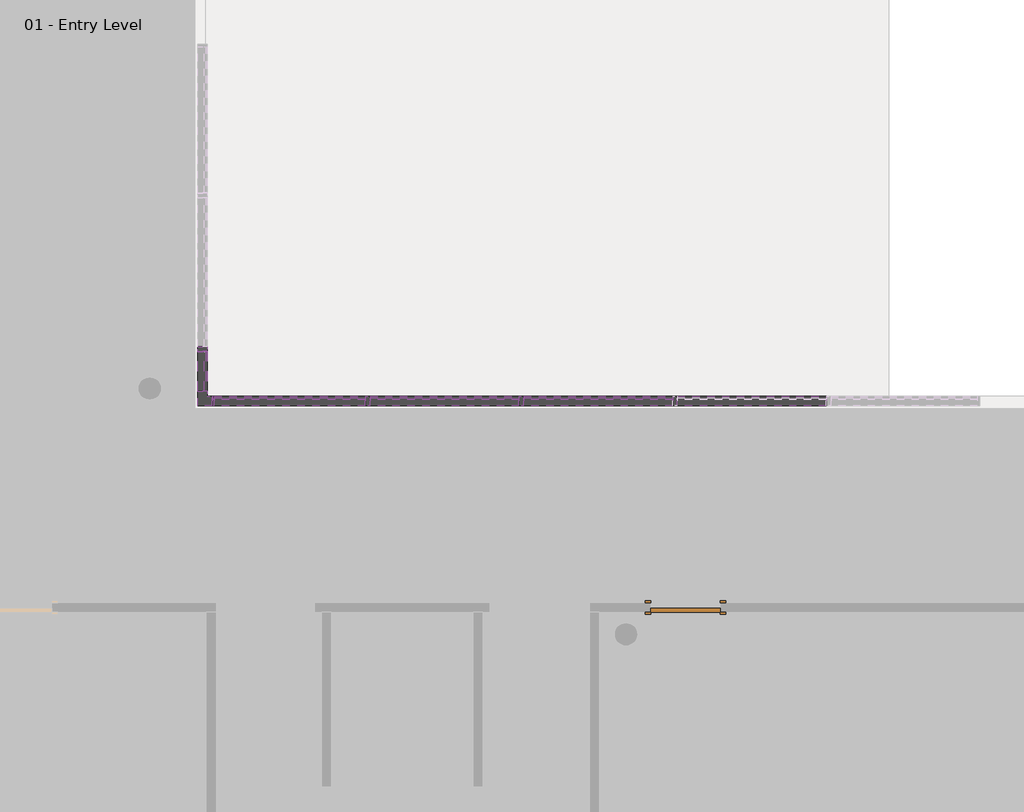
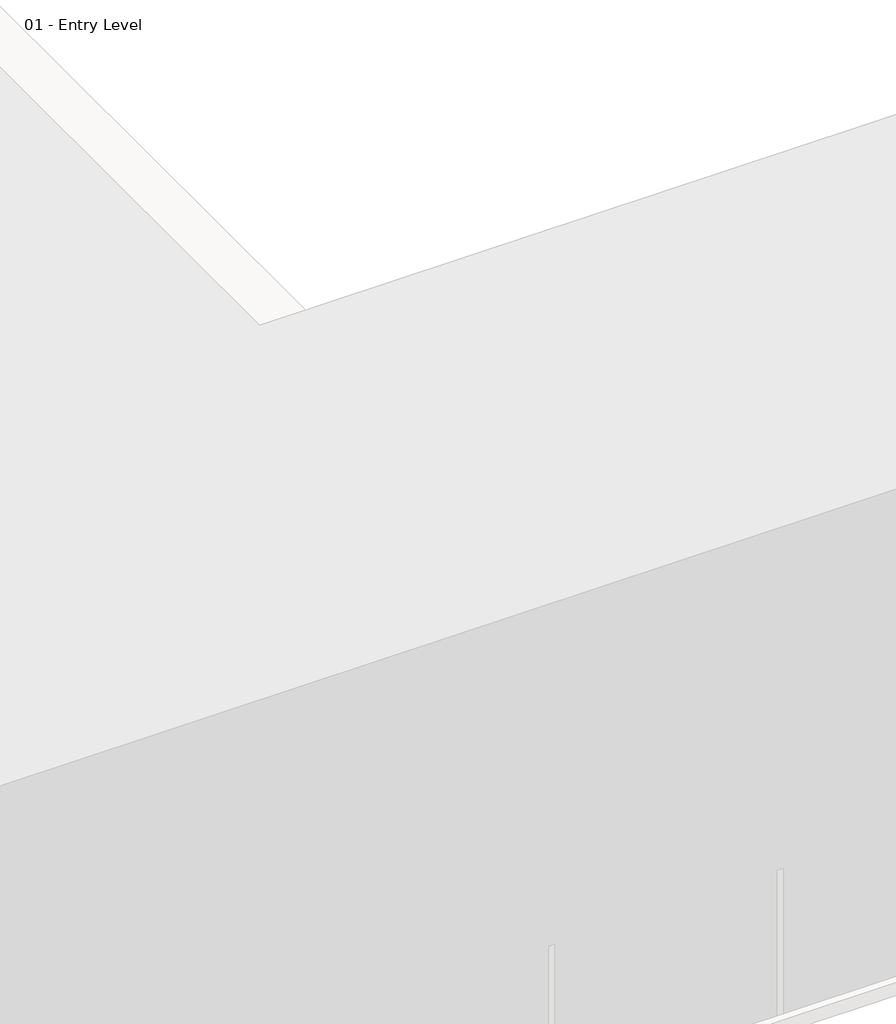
# One storey, part 9 of 34: 96 members, 30 plates, 1 door.
"""IFC4 building model written with IfcOpenShell, lengths in millimetres."""

from ifc_helpers import new_model, si_unit, origin, place, context, project, spatial, transform, mapped, element, save
from components import door_a1797ceb, member_863be36e, member_2b49869a, member_391b434c, member_9e90ae50, member_274b5bb4, member_3f1e2ae8, member_cfd492dc, member_3d213ca6, member_0f16ceef, member_ba732fc4, system_panel_glazed_1b9d6098, system_panel_glazed_70da479d, system_panel_glazed_4b84483b, system_panel_glazed_9dcaf0c5, system_panel_glazed_75599714, system_panel_glazed_d6bfc804

model = new_model("IFC4")

# Units and contexts
model_context = context("Model", 3, world=origin())
ifc_project = project(units=[si_unit("LENGTHUNIT", "METRE", prefix="MILLI")], contexts=[model_context])

# Site, building, storey
site = spatial("IfcSite", under=ifc_project)
building = spatial("IfcBuilding", under=site)
storey = spatial("IfcBuildingStorey", under=building, Name="01 - Entry Level", Elevation=0.0)

# Door
placement = place(None, origin())
door_shape = door_a1797ceb(model_context)
element("IfcDoor", 1, ObjectType="Single-Flush : 36\" x 84\"", at=placement, inside=storey, context=model_context, shape_type="MappedRepresentation", body=[
    mapped(door_shape, transform((23572.1207476, 8270.8, 0.0), x_axis=(-1.0, 0.0, 0.0), y_axis=(0.0, -1.0, 0.0), z_axis=(0.0, 0.0, 1.0))),
])

# Members
member_shape = member_863be36e(model_context)
element("IfcMember", 2, ObjectType="L Corner Mullion : 5\" x 5\" Corner", at=placement, inside=storey, context=model_context, shape_type="MappedRepresentation", body=[
    mapped(member_shape, transform((17184.0207476, 11001.3, 10972.8), x_axis=(0.0, -1.0, 0.0), y_axis=(1.0, 0.0, 0.0), z_axis=(0.0, 0.0, 1.0))),
])
element("IfcMember", 3, ObjectType="L Corner Mullion : 5\" x 5\" Corner", at=placement, inside=storey, context=model_context, shape_type="MappedRepresentation", body=[
    mapped(member_shape, transform((17184.0207476, 11001.3, 6096.0), x_axis=(0.0, -1.0, 0.0), y_axis=(1.0, 0.0, 0.0), z_axis=(0.0, 0.0, 1.0))),
])
element("IfcMember", 4, ObjectType="L Corner Mullion : 5\" x 5\" Corner", at=placement, inside=storey, context=model_context, shape_type="MappedRepresentation", body=[
    mapped(member_shape, transform((17184.0207476, 11001.3, 1219.2), x_axis=(0.0, -1.0, 0.0), y_axis=(1.0, 0.0, 0.0), z_axis=(0.0, 0.0, 1.0))),
])
element("IfcMember", 5, ObjectType="L Corner Mullion : 5\" x 5\" Corner", at=placement, inside=storey, context=model_context, shape_type="MappedRepresentation", body=[
    mapped(member_shape, transform((17184.0207476, 11001.3, 8534.4), x_axis=(0.0, -1.0, 0.0), y_axis=(1.0, 0.0, 0.0), z_axis=(0.0, 0.0, 1.0))),
])
element("IfcMember", 6, ObjectType="L Corner Mullion : 5\" x 5\" Corner", at=placement, inside=storey, context=model_context, shape_type="MappedRepresentation", body=[
    mapped(member_shape, transform((17184.0207476, 11001.3, 2438.4), x_axis=(0.0, -1.0, 0.0), y_axis=(1.0, 0.0, 0.0), z_axis=(0.0, 0.0, 1.0))),
])
element("IfcMember", 7, ObjectType="L Corner Mullion : 5\" x 5\" Corner", at=placement, inside=storey, context=model_context, shape_type="MappedRepresentation", body=[
    mapped(member_shape, transform((17184.0207476, 11001.3, 3657.6), x_axis=(0.0, -1.0, 0.0), y_axis=(1.0, 0.0, 0.0), z_axis=(0.0, 0.0, 1.0))),
])
element("IfcMember", 8, ObjectType="L Corner Mullion : 5\" x 5\" Corner", at=placement, inside=storey, context=model_context, shape_type="MappedRepresentation", body=[
    mapped(member_shape, transform((17184.0207476, 11001.3, 4876.8), x_axis=(0.0, -1.0, 0.0), y_axis=(1.0, 0.0, 0.0), z_axis=(0.0, 0.0, 1.0))),
])
element("IfcMember", 9, ObjectType="L Corner Mullion : 5\" x 5\" Corner", at=placement, inside=storey, context=model_context, shape_type="MappedRepresentation", body=[
    mapped(member_shape, transform((17184.0207476, 11001.3, 9753.6), x_axis=(0.0, -1.0, 0.0), y_axis=(1.0, 0.0, 0.0), z_axis=(0.0, 0.0, 1.0))),
])
element("IfcMember", 10, ObjectType="L Corner Mullion : 5\" x 5\" Corner", at=placement, inside=storey, context=model_context, shape_type="MappedRepresentation", body=[
    mapped(member_shape, transform((17184.0207476, 11001.3, 6096.0), x_axis=(-1.0, 0.0, 0.0), y_axis=(0.0, 1.0, 0.0), z_axis=(0.0, 0.0, -1.0))),
])
member_2_shape = member_2b49869a(model_context)
element("IfcMember", 11, ObjectType="Rectangular Mullion : 2.5\" x 5\" rectangular", at=placement, inside=storey, context=model_context, shape_type="MappedRepresentation", body=[
    mapped(member_2_shape, transform((21400.4207476, 11001.3, 9753.6), x_axis=(-1.0, 0.0, 0.0), y_axis=(0.0, 1.0, 0.0), z_axis=(0.0, 0.0, -1.0))),
])
element("IfcMember", 12, ObjectType="Rectangular Mullion : 2.5\" x 5\" rectangular", at=placement, inside=storey, context=model_context, shape_type="MappedRepresentation", body=[
    mapped(member_2_shape, transform((19368.4207476, 11001.3, 9753.6), x_axis=(-1.0, 0.0, 0.0), y_axis=(0.0, 1.0, 0.0), z_axis=(0.0, 0.0, -1.0))),
])
element("IfcMember", 13, ObjectType="Rectangular Mullion : 2.5\" x 5\" rectangular", at=placement, inside=storey, context=model_context, shape_type="MappedRepresentation", body=[
    mapped(member_2_shape, transform((17184.0207476, 11687.1, 9753.6), x_axis=(0.0, 1.0, 0.0), y_axis=(1.0, 0.0, 0.0), z_axis=(0.0, 0.0, -1.0))),
])
member_3_shape = member_391b434c(model_context)
element("IfcMember", 14, ObjectType="Rectangular Mullion : 2.5\" x 5\" rectangular", at=placement, inside=storey, context=model_context, shape_type="MappedRepresentation", body=[
    mapped(member_3_shape, transform((23464.1707476, 11001.3, 10972.8), x_axis=(0.0, 0.0, 1.0), y_axis=(0.0, 1.0, 0.0), z_axis=(-1.0, 0.0, 0.0))),
])
element("IfcMember", 15, ObjectType="Rectangular Mullion : 2.5\" x 5\" rectangular", at=placement, inside=storey, context=model_context, shape_type="MappedRepresentation", body=[
    mapped(member_3_shape, transform((21432.1707476, 11001.3, 10972.8), x_axis=(0.0, 0.0, 1.0), y_axis=(0.0, 1.0, 0.0), z_axis=(-1.0, 0.0, 0.0))),
])
element("IfcMember", 16, ObjectType="Rectangular Mullion : 2.5\" x 5\" rectangular", at=placement, inside=storey, context=model_context, shape_type="MappedRepresentation", body=[
    mapped(member_3_shape, transform((19400.1707476, 11001.3, 10972.8), x_axis=(0.0, 0.0, 1.0), y_axis=(0.0, 1.0, 0.0), z_axis=(-1.0, 0.0, 0.0))),
])
element("IfcMember", 17, ObjectType="Rectangular Mullion : 2.5\" x 5\" rectangular", at=placement, inside=storey, context=model_context, shape_type="MappedRepresentation", body=[
    mapped(member_3_shape, transform((23400.6707476, 11001.3, 0.0), x_axis=(0.0, 0.0, -1.0), y_axis=(0.0, 1.0, 0.0), z_axis=(1.0, 0.0, 0.0))),
])
element("IfcMember", 18, ObjectType="Rectangular Mullion : 2.5\" x 5\" rectangular", at=placement, inside=storey, context=model_context, shape_type="MappedRepresentation", body=[
    mapped(member_3_shape, transform((21368.6707476, 11001.3, 0.0), x_axis=(0.0, 0.0, -1.0), y_axis=(0.0, 1.0, 0.0), z_axis=(1.0, 0.0, 0.0))),
])
element("IfcMember", 19, ObjectType="Rectangular Mullion : 2.5\" x 5\" rectangular", at=placement, inside=storey, context=model_context, shape_type="MappedRepresentation", body=[
    mapped(member_3_shape, transform((17184.0207476, 11718.85, 0.0), x_axis=(0.0, 0.0, -1.0), y_axis=(1.0, 0.0, 0.0), z_axis=(0.0, -1.0, 0.0))),
])
member_4_shape = member_9e90ae50(model_context)
element("IfcMember", 20, ObjectType="Rectangular Mullion : 2.5\" x 5\" rectangular", at=placement, inside=storey, context=model_context, shape_type="MappedRepresentation", body=[
    mapped(member_4_shape, transform((23464.1707476, 11001.3, 1219.2), x_axis=(0.0, 0.0, 1.0), y_axis=(0.0, 1.0, 0.0), z_axis=(-1.0, 0.0, 0.0))),
])
element("IfcMember", 21, ObjectType="Rectangular Mullion : 2.5\" x 5\" rectangular", at=placement, inside=storey, context=model_context, shape_type="MappedRepresentation", body=[
    mapped(member_4_shape, transform((21432.1707476, 11001.3, 1219.2), x_axis=(0.0, 0.0, 1.0), y_axis=(0.0, 1.0, 0.0), z_axis=(-1.0, 0.0, 0.0))),
])
element("IfcMember", 22, ObjectType="Rectangular Mullion : 2.5\" x 5\" rectangular", at=placement, inside=storey, context=model_context, shape_type="MappedRepresentation", body=[
    mapped(member_4_shape, transform((19400.1707476, 11001.3, 1219.2), x_axis=(0.0, 0.0, 1.0), y_axis=(0.0, 1.0, 0.0), z_axis=(-1.0, 0.0, 0.0))),
])
element("IfcMember", 23, ObjectType="Rectangular Mullion : 2.5\" x 5\" rectangular", at=placement, inside=storey, context=model_context, shape_type="MappedRepresentation", body=[
    mapped(member_4_shape, transform((23464.1707476, 11001.3, 2438.4), x_axis=(0.0, 0.0, 1.0), y_axis=(0.0, 1.0, 0.0), z_axis=(-1.0, 0.0, 0.0))),
])
element("IfcMember", 24, ObjectType="Rectangular Mullion : 2.5\" x 5\" rectangular", at=placement, inside=storey, context=model_context, shape_type="MappedRepresentation", body=[
    mapped(member_4_shape, transform((21432.1707476, 11001.3, 2438.4), x_axis=(0.0, 0.0, 1.0), y_axis=(0.0, 1.0, 0.0), z_axis=(-1.0, 0.0, 0.0))),
])
element("IfcMember", 25, ObjectType="Rectangular Mullion : 2.5\" x 5\" rectangular", at=placement, inside=storey, context=model_context, shape_type="MappedRepresentation", body=[
    mapped(member_4_shape, transform((19400.1707476, 11001.3, 2438.4), x_axis=(0.0, 0.0, 1.0), y_axis=(0.0, 1.0, 0.0), z_axis=(-1.0, 0.0, 0.0))),
])
element("IfcMember", 26, ObjectType="Rectangular Mullion : 2.5\" x 5\" rectangular", at=placement, inside=storey, context=model_context, shape_type="MappedRepresentation", body=[
    mapped(member_4_shape, transform((23464.1707476, 11001.3, 3657.6), x_axis=(0.0, 0.0, 1.0), y_axis=(0.0, 1.0, 0.0), z_axis=(-1.0, 0.0, 0.0))),
])
element("IfcMember", 27, ObjectType="Rectangular Mullion : 2.5\" x 5\" rectangular", at=placement, inside=storey, context=model_context, shape_type="MappedRepresentation", body=[
    mapped(member_4_shape, transform((21432.1707476, 11001.3, 3657.6), x_axis=(0.0, 0.0, 1.0), y_axis=(0.0, 1.0, 0.0), z_axis=(-1.0, 0.0, 0.0))),
])
element("IfcMember", 28, ObjectType="Rectangular Mullion : 2.5\" x 5\" rectangular", at=placement, inside=storey, context=model_context, shape_type="MappedRepresentation", body=[
    mapped(member_4_shape, transform((19400.1707476, 11001.3, 3657.6), x_axis=(0.0, 0.0, 1.0), y_axis=(0.0, 1.0, 0.0), z_axis=(-1.0, 0.0, 0.0))),
])
element("IfcMember", 29, ObjectType="Rectangular Mullion : 2.5\" x 5\" rectangular", at=placement, inside=storey, context=model_context, shape_type="MappedRepresentation", body=[
    mapped(member_4_shape, transform((23464.1707476, 11001.3, 4876.8), x_axis=(0.0, 0.0, 1.0), y_axis=(0.0, 1.0, 0.0), z_axis=(-1.0, 0.0, 0.0))),
])
element("IfcMember", 30, ObjectType="Rectangular Mullion : 2.5\" x 5\" rectangular", at=placement, inside=storey, context=model_context, shape_type="MappedRepresentation", body=[
    mapped(member_4_shape, transform((21432.1707476, 11001.3, 4876.8), x_axis=(0.0, 0.0, 1.0), y_axis=(0.0, 1.0, 0.0), z_axis=(-1.0, 0.0, 0.0))),
])
element("IfcMember", 31, ObjectType="Rectangular Mullion : 2.5\" x 5\" rectangular", at=placement, inside=storey, context=model_context, shape_type="MappedRepresentation", body=[
    mapped(member_4_shape, transform((19400.1707476, 11001.3, 4876.8), x_axis=(0.0, 0.0, 1.0), y_axis=(0.0, 1.0, 0.0), z_axis=(-1.0, 0.0, 0.0))),
])
element("IfcMember", 32, ObjectType="Rectangular Mullion : 2.5\" x 5\" rectangular", at=placement, inside=storey, context=model_context, shape_type="MappedRepresentation", body=[
    mapped(member_4_shape, transform((23464.1707476, 11001.3, 6096.0), x_axis=(0.0, 0.0, 1.0), y_axis=(0.0, 1.0, 0.0), z_axis=(-1.0, 0.0, 0.0))),
])
element("IfcMember", 33, ObjectType="Rectangular Mullion : 2.5\" x 5\" rectangular", at=placement, inside=storey, context=model_context, shape_type="MappedRepresentation", body=[
    mapped(member_4_shape, transform((21432.1707476, 11001.3, 6096.0), x_axis=(0.0, 0.0, 1.0), y_axis=(0.0, 1.0, 0.0), z_axis=(-1.0, 0.0, 0.0))),
])
element("IfcMember", 34, ObjectType="Rectangular Mullion : 2.5\" x 5\" rectangular", at=placement, inside=storey, context=model_context, shape_type="MappedRepresentation", body=[
    mapped(member_4_shape, transform((19400.1707476, 11001.3, 6096.0), x_axis=(0.0, 0.0, 1.0), y_axis=(0.0, 1.0, 0.0), z_axis=(-1.0, 0.0, 0.0))),
])
element("IfcMember", 35, ObjectType="Rectangular Mullion : 2.5\" x 5\" rectangular", at=placement, inside=storey, context=model_context, shape_type="MappedRepresentation", body=[
    mapped(member_4_shape, transform((23464.1707476, 11001.3, 7315.2), x_axis=(0.0, 0.0, 1.0), y_axis=(0.0, 1.0, 0.0), z_axis=(-1.0, 0.0, 0.0))),
])
element("IfcMember", 36, ObjectType="Rectangular Mullion : 2.5\" x 5\" rectangular", at=placement, inside=storey, context=model_context, shape_type="MappedRepresentation", body=[
    mapped(member_4_shape, transform((21432.1707476, 11001.3, 7315.2), x_axis=(0.0, 0.0, 1.0), y_axis=(0.0, 1.0, 0.0), z_axis=(-1.0, 0.0, 0.0))),
])
element("IfcMember", 37, ObjectType="Rectangular Mullion : 2.5\" x 5\" rectangular", at=placement, inside=storey, context=model_context, shape_type="MappedRepresentation", body=[
    mapped(member_4_shape, transform((19400.1707476, 11001.3, 7315.2), x_axis=(0.0, 0.0, 1.0), y_axis=(0.0, 1.0, 0.0), z_axis=(-1.0, 0.0, 0.0))),
])
element("IfcMember", 38, ObjectType="Rectangular Mullion : 2.5\" x 5\" rectangular", at=placement, inside=storey, context=model_context, shape_type="MappedRepresentation", body=[
    mapped(member_4_shape, transform((23464.1707476, 11001.3, 8534.4), x_axis=(0.0, 0.0, 1.0), y_axis=(0.0, 1.0, 0.0), z_axis=(-1.0, 0.0, 0.0))),
])
element("IfcMember", 39, ObjectType="Rectangular Mullion : 2.5\" x 5\" rectangular", at=placement, inside=storey, context=model_context, shape_type="MappedRepresentation", body=[
    mapped(member_4_shape, transform((21432.1707476, 11001.3, 8534.4), x_axis=(0.0, 0.0, 1.0), y_axis=(0.0, 1.0, 0.0), z_axis=(-1.0, 0.0, 0.0))),
])
element("IfcMember", 40, ObjectType="Rectangular Mullion : 2.5\" x 5\" rectangular", at=placement, inside=storey, context=model_context, shape_type="MappedRepresentation", body=[
    mapped(member_4_shape, transform((19400.1707476, 11001.3, 8534.4), x_axis=(0.0, 0.0, 1.0), y_axis=(0.0, 1.0, 0.0), z_axis=(-1.0, 0.0, 0.0))),
])
element("IfcMember", 41, ObjectType="Rectangular Mullion : 2.5\" x 5\" rectangular", at=placement, inside=storey, context=model_context, shape_type="MappedRepresentation", body=[
    mapped(member_4_shape, transform((23464.1707476, 11001.3, 9753.6), x_axis=(0.0, 0.0, 1.0), y_axis=(0.0, 1.0, 0.0), z_axis=(-1.0, 0.0, 0.0))),
])
element("IfcMember", 42, ObjectType="Rectangular Mullion : 2.5\" x 5\" rectangular", at=placement, inside=storey, context=model_context, shape_type="MappedRepresentation", body=[
    mapped(member_4_shape, transform((21432.1707476, 11001.3, 9753.6), x_axis=(0.0, 0.0, 1.0), y_axis=(0.0, 1.0, 0.0), z_axis=(-1.0, 0.0, 0.0))),
])
element("IfcMember", 43, ObjectType="Rectangular Mullion : 2.5\" x 5\" rectangular", at=placement, inside=storey, context=model_context, shape_type="MappedRepresentation", body=[
    mapped(member_4_shape, transform((19400.1707476, 11001.3, 9753.6), x_axis=(0.0, 0.0, 1.0), y_axis=(0.0, 1.0, 0.0), z_axis=(-1.0, 0.0, 0.0))),
])
element("IfcMember", 44, ObjectType="Rectangular Mullion : 2.5\" x 5\" rectangular", at=placement, inside=storey, context=model_context, shape_type="MappedRepresentation", body=[
    mapped(member_2_shape, transform((23432.4207476, 11001.3, 0.0), x_axis=(-1.0, 0.0, 0.0), y_axis=(0.0, 1.0, 0.0), z_axis=(0.0, 0.0, -1.0))),
])
element("IfcMember", 45, ObjectType="Rectangular Mullion : 2.5\" x 5\" rectangular", at=placement, inside=storey, context=model_context, shape_type="MappedRepresentation", body=[
    mapped(member_2_shape, transform((21400.4207476, 11001.3, 0.0), x_axis=(-1.0, 0.0, 0.0), y_axis=(0.0, 1.0, 0.0), z_axis=(0.0, 0.0, -1.0))),
])
element("IfcMember", 46, ObjectType="Rectangular Mullion : 2.5\" x 5\" rectangular", at=placement, inside=storey, context=model_context, shape_type="MappedRepresentation", body=[
    mapped(member_2_shape, transform((19368.4207476, 11001.3, 0.0), x_axis=(-1.0, 0.0, 0.0), y_axis=(0.0, 1.0, 0.0), z_axis=(0.0, 0.0, -1.0))),
])
element("IfcMember", 47, ObjectType="Rectangular Mullion : 2.5\" x 5\" rectangular", at=placement, inside=storey, context=model_context, shape_type="MappedRepresentation", body=[
    mapped(member_2_shape, transform((17184.0207476, 11687.1, 0.0), x_axis=(0.0, 1.0, 0.0), y_axis=(1.0, 0.0, 0.0), z_axis=(0.0, 0.0, -1.0))),
])
element("IfcMember", 48, ObjectType="Rectangular Mullion : 2.5\" x 5\" rectangular", at=placement, inside=storey, context=model_context, shape_type="MappedRepresentation", body=[
    mapped(member_2_shape, transform((21400.4207476, 11001.3, 1219.2), x_axis=(-1.0, 0.0, 0.0), y_axis=(0.0, 1.0, 0.0), z_axis=(0.0, 0.0, -1.0))),
])
element("IfcMember", 49, ObjectType="Rectangular Mullion : 2.5\" x 5\" rectangular", at=placement, inside=storey, context=model_context, shape_type="MappedRepresentation", body=[
    mapped(member_2_shape, transform((19368.4207476, 11001.3, 1219.2), x_axis=(-1.0, 0.0, 0.0), y_axis=(0.0, 1.0, 0.0), z_axis=(0.0, 0.0, -1.0))),
])
element("IfcMember", 50, ObjectType="Rectangular Mullion : 2.5\" x 5\" rectangular", at=placement, inside=storey, context=model_context, shape_type="MappedRepresentation", body=[
    mapped(member_2_shape, transform((21400.4207476, 11001.3, 2438.4), x_axis=(-1.0, 0.0, 0.0), y_axis=(0.0, 1.0, 0.0), z_axis=(0.0, 0.0, -1.0))),
])
element("IfcMember", 51, ObjectType="Rectangular Mullion : 2.5\" x 5\" rectangular", at=placement, inside=storey, context=model_context, shape_type="MappedRepresentation", body=[
    mapped(member_2_shape, transform((19368.4207476, 11001.3, 2438.4), x_axis=(-1.0, 0.0, 0.0), y_axis=(0.0, 1.0, 0.0), z_axis=(0.0, 0.0, -1.0))),
])
element("IfcMember", 52, ObjectType="Rectangular Mullion : 2.5\" x 5\" rectangular", at=placement, inside=storey, context=model_context, shape_type="MappedRepresentation", body=[
    mapped(member_2_shape, transform((21400.4207476, 11001.3, 3657.6), x_axis=(-1.0, 0.0, 0.0), y_axis=(0.0, 1.0, 0.0), z_axis=(0.0, 0.0, -1.0))),
])
element("IfcMember", 53, ObjectType="Rectangular Mullion : 2.5\" x 5\" rectangular", at=placement, inside=storey, context=model_context, shape_type="MappedRepresentation", body=[
    mapped(member_2_shape, transform((19368.4207476, 11001.3, 3657.6), x_axis=(-1.0, 0.0, 0.0), y_axis=(0.0, 1.0, 0.0), z_axis=(0.0, 0.0, -1.0))),
])
element("IfcMember", 54, ObjectType="Rectangular Mullion : 2.5\" x 5\" rectangular", at=placement, inside=storey, context=model_context, shape_type="MappedRepresentation", body=[
    mapped(member_2_shape, transform((21400.4207476, 11001.3, 4876.8), x_axis=(-1.0, 0.0, 0.0), y_axis=(0.0, 1.0, 0.0), z_axis=(0.0, 0.0, -1.0))),
])
element("IfcMember", 55, ObjectType="Rectangular Mullion : 2.5\" x 5\" rectangular", at=placement, inside=storey, context=model_context, shape_type="MappedRepresentation", body=[
    mapped(member_2_shape, transform((19368.4207476, 11001.3, 4876.8), x_axis=(-1.0, 0.0, 0.0), y_axis=(0.0, 1.0, 0.0), z_axis=(0.0, 0.0, -1.0))),
])
element("IfcMember", 56, ObjectType="Rectangular Mullion : 2.5\" x 5\" rectangular", at=placement, inside=storey, context=model_context, shape_type="MappedRepresentation", body=[
    mapped(member_2_shape, transform((21400.4207476, 11001.3, 6096.0), x_axis=(-1.0, 0.0, 0.0), y_axis=(0.0, 1.0, 0.0), z_axis=(0.0, 0.0, -1.0))),
])
element("IfcMember", 57, ObjectType="Rectangular Mullion : 2.5\" x 5\" rectangular", at=placement, inside=storey, context=model_context, shape_type="MappedRepresentation", body=[
    mapped(member_2_shape, transform((19368.4207476, 11001.3, 6096.0), x_axis=(-1.0, 0.0, 0.0), y_axis=(0.0, 1.0, 0.0), z_axis=(0.0, 0.0, -1.0))),
])
element("IfcMember", 58, ObjectType="Rectangular Mullion : 2.5\" x 5\" rectangular", at=placement, inside=storey, context=model_context, shape_type="MappedRepresentation", body=[
    mapped(member_2_shape, transform((21400.4207476, 11001.3, 7315.2), x_axis=(-1.0, 0.0, 0.0), y_axis=(0.0, 1.0, 0.0), z_axis=(0.0, 0.0, -1.0))),
])
element("IfcMember", 59, ObjectType="Rectangular Mullion : 2.5\" x 5\" rectangular", at=placement, inside=storey, context=model_context, shape_type="MappedRepresentation", body=[
    mapped(member_2_shape, transform((19368.4207476, 11001.3, 7315.2), x_axis=(-1.0, 0.0, 0.0), y_axis=(0.0, 1.0, 0.0), z_axis=(0.0, 0.0, -1.0))),
])
element("IfcMember", 60, ObjectType="Rectangular Mullion : 2.5\" x 5\" rectangular", at=placement, inside=storey, context=model_context, shape_type="MappedRepresentation", body=[
    mapped(member_2_shape, transform((21400.4207476, 11001.3, 8534.4), x_axis=(-1.0, 0.0, 0.0), y_axis=(0.0, 1.0, 0.0), z_axis=(0.0, 0.0, -1.0))),
])
element("IfcMember", 61, ObjectType="Rectangular Mullion : 2.5\" x 5\" rectangular", at=placement, inside=storey, context=model_context, shape_type="MappedRepresentation", body=[
    mapped(member_2_shape, transform((19368.4207476, 11001.3, 8534.4), x_axis=(-1.0, 0.0, 0.0), y_axis=(0.0, 1.0, 0.0), z_axis=(0.0, 0.0, -1.0))),
])
element("IfcMember", 62, ObjectType="Rectangular Mullion : 2.5\" x 5\" rectangular", at=placement, inside=storey, context=model_context, shape_type="MappedRepresentation", body=[
    mapped(member_2_shape, transform((17184.0207476, 11687.1, 1219.2), x_axis=(0.0, 1.0, 0.0), y_axis=(1.0, 0.0, 0.0), z_axis=(0.0, 0.0, -1.0))),
])
element("IfcMember", 63, ObjectType="Rectangular Mullion : 2.5\" x 5\" rectangular", at=placement, inside=storey, context=model_context, shape_type="MappedRepresentation", body=[
    mapped(member_2_shape, transform((17184.0207476, 11687.1, 2438.4), x_axis=(0.0, 1.0, 0.0), y_axis=(1.0, 0.0, 0.0), z_axis=(0.0, 0.0, -1.0))),
])
element("IfcMember", 64, ObjectType="Rectangular Mullion : 2.5\" x 5\" rectangular", at=placement, inside=storey, context=model_context, shape_type="MappedRepresentation", body=[
    mapped(member_2_shape, transform((17184.0207476, 11687.1, 3657.6), x_axis=(0.0, 1.0, 0.0), y_axis=(1.0, 0.0, 0.0), z_axis=(0.0, 0.0, -1.0))),
])
element("IfcMember", 65, ObjectType="Rectangular Mullion : 2.5\" x 5\" rectangular", at=placement, inside=storey, context=model_context, shape_type="MappedRepresentation", body=[
    mapped(member_2_shape, transform((17184.0207476, 11687.1, 4876.8), x_axis=(0.0, 1.0, 0.0), y_axis=(1.0, 0.0, 0.0), z_axis=(0.0, 0.0, -1.0))),
])
element("IfcMember", 66, ObjectType="Rectangular Mullion : 2.5\" x 5\" rectangular", at=placement, inside=storey, context=model_context, shape_type="MappedRepresentation", body=[
    mapped(member_2_shape, transform((17184.0207476, 11687.1, 6096.0), x_axis=(0.0, 1.0, 0.0), y_axis=(1.0, 0.0, 0.0), z_axis=(0.0, 0.0, -1.0))),
])
element("IfcMember", 67, ObjectType="Rectangular Mullion : 2.5\" x 5\" rectangular", at=placement, inside=storey, context=model_context, shape_type="MappedRepresentation", body=[
    mapped(member_2_shape, transform((17184.0207476, 11687.1, 7315.2), x_axis=(0.0, 1.0, 0.0), y_axis=(1.0, 0.0, 0.0), z_axis=(0.0, 0.0, -1.0))),
])
element("IfcMember", 68, ObjectType="Rectangular Mullion : 2.5\" x 5\" rectangular", at=placement, inside=storey, context=model_context, shape_type="MappedRepresentation", body=[
    mapped(member_2_shape, transform((17184.0207476, 11687.1, 8534.4), x_axis=(0.0, 1.0, 0.0), y_axis=(1.0, 0.0, 0.0), z_axis=(0.0, 0.0, -1.0))),
])
member_5_shape = member_274b5bb4(model_context)
element("IfcMember", 69, ObjectType="Rectangular Mullion : 2.5\" x 5\" rectangular", at=placement, inside=storey, context=model_context, shape_type="MappedRepresentation", body=[
    mapped(member_5_shape, transform((17184.0207476, 11655.35, 10972.8), x_axis=(0.0, 0.0, 1.0), y_axis=(1.0, 0.0, 0.0), z_axis=(0.0, 1.0, 0.0))),
])
element("IfcMember", 70, ObjectType="Rectangular Mullion : 2.5\" x 5\" rectangular", at=placement, inside=storey, context=model_context, shape_type="MappedRepresentation", body=[
    mapped(member_5_shape, transform((17184.0207476, 11128.3, 0.0), x_axis=(0.0, 0.0, -1.0), y_axis=(1.0, 0.0, 0.0), z_axis=(0.0, -1.0, 0.0))),
])
member_6_shape = member_3f1e2ae8(model_context)
element("IfcMember", 71, ObjectType="Rectangular Mullion : 2.5\" x 5\" rectangular", at=placement, inside=storey, context=model_context, shape_type="MappedRepresentation", body=[
    mapped(member_6_shape, transform((17184.0207476, 11655.35, 1219.2), x_axis=(0.0, 0.0, 1.0), y_axis=(1.0, 0.0, 0.0), z_axis=(0.0, 1.0, 0.0))),
])
element("IfcMember", 72, ObjectType="Rectangular Mullion : 2.5\" x 5\" rectangular", at=placement, inside=storey, context=model_context, shape_type="MappedRepresentation", body=[
    mapped(member_6_shape, transform((17184.0207476, 11655.35, 2438.4), x_axis=(0.0, 0.0, 1.0), y_axis=(1.0, 0.0, 0.0), z_axis=(0.0, 1.0, 0.0))),
])
element("IfcMember", 73, ObjectType="Rectangular Mullion : 2.5\" x 5\" rectangular", at=placement, inside=storey, context=model_context, shape_type="MappedRepresentation", body=[
    mapped(member_6_shape, transform((17184.0207476, 11655.35, 3657.6), x_axis=(0.0, 0.0, 1.0), y_axis=(1.0, 0.0, 0.0), z_axis=(0.0, 1.0, 0.0))),
])
element("IfcMember", 74, ObjectType="Rectangular Mullion : 2.5\" x 5\" rectangular", at=placement, inside=storey, context=model_context, shape_type="MappedRepresentation", body=[
    mapped(member_6_shape, transform((17184.0207476, 11655.35, 4876.8), x_axis=(0.0, 0.0, 1.0), y_axis=(1.0, 0.0, 0.0), z_axis=(0.0, 1.0, 0.0))),
])
element("IfcMember", 75, ObjectType="Rectangular Mullion : 2.5\" x 5\" rectangular", at=placement, inside=storey, context=model_context, shape_type="MappedRepresentation", body=[
    mapped(member_6_shape, transform((17184.0207476, 11655.35, 6096.0), x_axis=(0.0, 0.0, 1.0), y_axis=(1.0, 0.0, 0.0), z_axis=(0.0, 1.0, 0.0))),
])
element("IfcMember", 76, ObjectType="Rectangular Mullion : 2.5\" x 5\" rectangular", at=placement, inside=storey, context=model_context, shape_type="MappedRepresentation", body=[
    mapped(member_6_shape, transform((17184.0207476, 11655.35, 7315.2), x_axis=(0.0, 0.0, 1.0), y_axis=(1.0, 0.0, 0.0), z_axis=(0.0, 1.0, 0.0))),
])
element("IfcMember", 77, ObjectType="Rectangular Mullion : 2.5\" x 5\" rectangular", at=placement, inside=storey, context=model_context, shape_type="MappedRepresentation", body=[
    mapped(member_6_shape, transform((17184.0207476, 11655.35, 8534.4), x_axis=(0.0, 0.0, 1.0), y_axis=(1.0, 0.0, 0.0), z_axis=(0.0, 1.0, 0.0))),
])
element("IfcMember", 78, ObjectType="Rectangular Mullion : 2.5\" x 5\" rectangular", at=placement, inside=storey, context=model_context, shape_type="MappedRepresentation", body=[
    mapped(member_6_shape, transform((17184.0207476, 11655.35, 9753.6), x_axis=(0.0, 0.0, 1.0), y_axis=(1.0, 0.0, 0.0), z_axis=(0.0, 1.0, 0.0))),
])
member_7_shape = member_cfd492dc(model_context)
element("IfcMember", 79, ObjectType="Rectangular Mullion : 2.5\" x 5\" rectangular", at=placement, inside=storey, context=model_context, shape_type="MappedRepresentation", body=[
    mapped(member_7_shape, transform((17336.4207476, 11001.3, 10972.8), x_axis=(0.0, 0.0, 1.0), y_axis=(0.0, 1.0, 0.0), z_axis=(-1.0, 0.0, 0.0))),
])
member_8_shape = member_3d213ca6(model_context)
element("IfcMember", 80, ObjectType="Rectangular Mullion : 2.5\" x 5\" rectangular", at=placement, inside=storey, context=model_context, shape_type="MappedRepresentation", body=[
    mapped(member_8_shape, transform((17336.4207476, 11001.3, 1219.2), x_axis=(0.0, 0.0, 1.0), y_axis=(0.0, 1.0, 0.0), z_axis=(-1.0, 0.0, 0.0))),
])
element("IfcMember", 81, ObjectType="Rectangular Mullion : 2.5\" x 5\" rectangular", at=placement, inside=storey, context=model_context, shape_type="MappedRepresentation", body=[
    mapped(member_8_shape, transform((17336.4207476, 11001.3, 2438.4), x_axis=(0.0, 0.0, 1.0), y_axis=(0.0, 1.0, 0.0), z_axis=(-1.0, 0.0, 0.0))),
])
element("IfcMember", 82, ObjectType="Rectangular Mullion : 2.5\" x 5\" rectangular", at=placement, inside=storey, context=model_context, shape_type="MappedRepresentation", body=[
    mapped(member_8_shape, transform((17336.4207476, 11001.3, 3657.6), x_axis=(0.0, 0.0, 1.0), y_axis=(0.0, 1.0, 0.0), z_axis=(-1.0, 0.0, 0.0))),
])
element("IfcMember", 83, ObjectType="Rectangular Mullion : 2.5\" x 5\" rectangular", at=placement, inside=storey, context=model_context, shape_type="MappedRepresentation", body=[
    mapped(member_8_shape, transform((17336.4207476, 11001.3, 4876.8), x_axis=(0.0, 0.0, 1.0), y_axis=(0.0, 1.0, 0.0), z_axis=(-1.0, 0.0, 0.0))),
])
element("IfcMember", 84, ObjectType="Rectangular Mullion : 2.5\" x 5\" rectangular", at=placement, inside=storey, context=model_context, shape_type="MappedRepresentation", body=[
    mapped(member_8_shape, transform((17336.4207476, 11001.3, 6096.0), x_axis=(0.0, 0.0, 1.0), y_axis=(0.0, 1.0, 0.0), z_axis=(-1.0, 0.0, 0.0))),
])
element("IfcMember", 85, ObjectType="Rectangular Mullion : 2.5\" x 5\" rectangular", at=placement, inside=storey, context=model_context, shape_type="MappedRepresentation", body=[
    mapped(member_8_shape, transform((17336.4207476, 11001.3, 7315.2), x_axis=(0.0, 0.0, 1.0), y_axis=(0.0, 1.0, 0.0), z_axis=(-1.0, 0.0, 0.0))),
])
element("IfcMember", 86, ObjectType="Rectangular Mullion : 2.5\" x 5\" rectangular", at=placement, inside=storey, context=model_context, shape_type="MappedRepresentation", body=[
    mapped(member_8_shape, transform((17336.4207476, 11001.3, 8534.4), x_axis=(0.0, 0.0, 1.0), y_axis=(0.0, 1.0, 0.0), z_axis=(-1.0, 0.0, 0.0))),
])
element("IfcMember", 87, ObjectType="Rectangular Mullion : 2.5\" x 5\" rectangular", at=placement, inside=storey, context=model_context, shape_type="MappedRepresentation", body=[
    mapped(member_8_shape, transform((17336.4207476, 11001.3, 9753.6), x_axis=(0.0, 0.0, 1.0), y_axis=(0.0, 1.0, 0.0), z_axis=(-1.0, 0.0, 0.0))),
])
element("IfcMember", 88, ObjectType="Rectangular Mullion : 2.5\" x 5\" rectangular", at=placement, inside=storey, context=model_context, shape_type="MappedRepresentation", body=[
    mapped(member_7_shape, transform((19336.6707476, 11001.3, 0.0), x_axis=(0.0, 0.0, -1.0), y_axis=(0.0, 1.0, 0.0), z_axis=(1.0, 0.0, 0.0))),
])
member_9_shape = member_0f16ceef(model_context)
element("IfcMember", 89, ObjectType="Rectangular Mullion : 2.5\" x 5\" rectangular", at=placement, inside=storey, context=model_context, shape_type="MappedRepresentation", body=[
    mapped(member_9_shape, transform((17311.0207476, 11001.3, 1219.2), x_axis=(0.0, 0.0, 1.0), y_axis=(0.0, 1.0, 0.0), z_axis=(-1.0, 0.0, 0.0))),
])
element("IfcMember", 90, ObjectType="Rectangular Mullion : 2.5\" x 5\" rectangular", at=placement, inside=storey, context=model_context, shape_type="MappedRepresentation", body=[
    mapped(member_9_shape, transform((17311.0207476, 11001.3, 2438.4), x_axis=(0.0, 0.0, 1.0), y_axis=(0.0, 1.0, 0.0), z_axis=(-1.0, 0.0, 0.0))),
])
element("IfcMember", 91, ObjectType="Rectangular Mullion : 2.5\" x 5\" rectangular", at=placement, inside=storey, context=model_context, shape_type="MappedRepresentation", body=[
    mapped(member_9_shape, transform((17311.0207476, 11001.3, 3657.6), x_axis=(0.0, 0.0, 1.0), y_axis=(0.0, 1.0, 0.0), z_axis=(-1.0, 0.0, 0.0))),
])
element("IfcMember", 92, ObjectType="Rectangular Mullion : 2.5\" x 5\" rectangular", at=placement, inside=storey, context=model_context, shape_type="MappedRepresentation", body=[
    mapped(member_9_shape, transform((17311.0207476, 11001.3, 4876.8), x_axis=(0.0, 0.0, 1.0), y_axis=(0.0, 1.0, 0.0), z_axis=(-1.0, 0.0, 0.0))),
])
element("IfcMember", 93, ObjectType="Rectangular Mullion : 2.5\" x 5\" rectangular", at=placement, inside=storey, context=model_context, shape_type="MappedRepresentation", body=[
    mapped(member_9_shape, transform((17311.0207476, 11001.3, 6096.0), x_axis=(0.0, 0.0, 1.0), y_axis=(0.0, 1.0, 0.0), z_axis=(-1.0, 0.0, 0.0))),
])
element("IfcMember", 94, ObjectType="Rectangular Mullion : 2.5\" x 5\" rectangular", at=placement, inside=storey, context=model_context, shape_type="MappedRepresentation", body=[
    mapped(member_9_shape, transform((17311.0207476, 11001.3, 7315.2), x_axis=(0.0, 0.0, 1.0), y_axis=(0.0, 1.0, 0.0), z_axis=(-1.0, 0.0, 0.0))),
])
element("IfcMember", 95, ObjectType="Rectangular Mullion : 2.5\" x 5\" rectangular", at=placement, inside=storey, context=model_context, shape_type="MappedRepresentation", body=[
    mapped(member_9_shape, transform((17311.0207476, 11001.3, 8534.4), x_axis=(0.0, 0.0, 1.0), y_axis=(0.0, 1.0, 0.0), z_axis=(-1.0, 0.0, 0.0))),
])
element("IfcMember", 96, ObjectType="Rectangular Mullion : 2.5\" x 5\" rectangular", at=placement, inside=storey, context=model_context, shape_type="MappedRepresentation", body=[
    mapped(member_9_shape, transform((17311.0207476, 11001.3, 9753.6), x_axis=(0.0, 0.0, 1.0), y_axis=(0.0, 1.0, 0.0), z_axis=(-1.0, 0.0, 0.0))),
])
member_10_shape = member_ba732fc4(model_context)
element("IfcMember", 97, ObjectType="Rectangular Mullion : 2.5\" x 5\" rectangular", at=placement, inside=storey, context=model_context, shape_type="MappedRepresentation", body=[
    mapped(member_10_shape, transform((17336.4207476, 11001.3, 0.0), x_axis=(0.0, 0.0, -1.0), y_axis=(0.0, 1.0, 0.0), z_axis=(1.0, 0.0, 0.0))),
])

# Plates
system_panel_glazed_shape = system_panel_glazed_1b9d6098(model_context)
element("IfcPlate", 98, ObjectType="System Panel : Glazed", at=placement, inside=storey, context=model_context, shape_type="MappedRepresentation", body=[
    mapped(system_panel_glazed_shape, transform((22416.4207476, 11001.3, 63.5), x_axis=(-1.0, 0.0, 0.0), y_axis=(0.0, -1.0, 0.0), z_axis=(0.0, 0.0, 1.0))),
])
element("IfcPlate", 99, ObjectType="System Panel : Glazed", at=placement, inside=storey, context=model_context, shape_type="MappedRepresentation", body=[
    mapped(system_panel_glazed_shape, transform((20384.4207476, 11001.3, 63.5), x_axis=(-1.0, 0.0, 0.0), y_axis=(0.0, -1.0, 0.0), z_axis=(0.0, 0.0, 1.0))),
])
element("IfcPlate", 100, ObjectType="System Panel : Glazed", at=placement, inside=storey, context=model_context, shape_type="MappedRepresentation", body=[
    mapped(system_panel_glazed_shape, transform((22416.4207476, 11001.3, 9785.35), x_axis=(-1.0, 0.0, 0.0), y_axis=(0.0, -1.0, 0.0), z_axis=(0.0, 0.0, 1.0))),
])
element("IfcPlate", 101, ObjectType="System Panel : Glazed", at=placement, inside=storey, context=model_context, shape_type="MappedRepresentation", body=[
    mapped(system_panel_glazed_shape, transform((20384.4207476, 11001.3, 9785.35), x_axis=(-1.0, 0.0, 0.0), y_axis=(0.0, -1.0, 0.0), z_axis=(0.0, 0.0, 1.0))),
])
system_panel_glazed_2_shape = system_panel_glazed_70da479d(model_context)
element("IfcPlate", 102, ObjectType="System Panel : Glazed", at=placement, inside=storey, context=model_context, shape_type="MappedRepresentation", body=[
    mapped(system_panel_glazed_2_shape, transform((22416.4207476, 11001.3, 1250.95), x_axis=(-1.0, 0.0, 0.0), y_axis=(0.0, -1.0, 0.0), z_axis=(0.0, 0.0, 1.0))),
])
element("IfcPlate", 103, ObjectType="System Panel : Glazed", at=placement, inside=storey, context=model_context, shape_type="MappedRepresentation", body=[
    mapped(system_panel_glazed_2_shape, transform((20384.4207476, 11001.3, 1250.95), x_axis=(-1.0, 0.0, 0.0), y_axis=(0.0, -1.0, 0.0), z_axis=(0.0, 0.0, 1.0))),
])
element("IfcPlate", 104, ObjectType="System Panel : Glazed", at=placement, inside=storey, context=model_context, shape_type="MappedRepresentation", body=[
    mapped(system_panel_glazed_2_shape, transform((22416.4207476, 11001.3, 2470.15), x_axis=(-1.0, 0.0, 0.0), y_axis=(0.0, -1.0, 0.0), z_axis=(0.0, 0.0, 1.0))),
])
element("IfcPlate", 105, ObjectType="System Panel : Glazed", at=placement, inside=storey, context=model_context, shape_type="MappedRepresentation", body=[
    mapped(system_panel_glazed_2_shape, transform((20384.4207476, 11001.3, 2470.15), x_axis=(-1.0, 0.0, 0.0), y_axis=(0.0, -1.0, 0.0), z_axis=(0.0, 0.0, 1.0))),
])
element("IfcPlate", 106, ObjectType="System Panel : Glazed", at=placement, inside=storey, context=model_context, shape_type="MappedRepresentation", body=[
    mapped(system_panel_glazed_2_shape, transform((22416.4207476, 11001.3, 3689.35), x_axis=(-1.0, 0.0, 0.0), y_axis=(0.0, -1.0, 0.0), z_axis=(0.0, 0.0, 1.0))),
])
element("IfcPlate", 107, ObjectType="System Panel : Glazed", at=placement, inside=storey, context=model_context, shape_type="MappedRepresentation", body=[
    mapped(system_panel_glazed_2_shape, transform((20384.4207476, 11001.3, 3689.35), x_axis=(-1.0, 0.0, 0.0), y_axis=(0.0, -1.0, 0.0), z_axis=(0.0, 0.0, 1.0))),
])
element("IfcPlate", 108, ObjectType="System Panel : Glazed", at=placement, inside=storey, context=model_context, shape_type="MappedRepresentation", body=[
    mapped(system_panel_glazed_2_shape, transform((22416.4207476, 11001.3, 4908.55), x_axis=(-1.0, 0.0, 0.0), y_axis=(0.0, -1.0, 0.0), z_axis=(0.0, 0.0, 1.0))),
])
element("IfcPlate", 109, ObjectType="System Panel : Glazed", at=placement, inside=storey, context=model_context, shape_type="MappedRepresentation", body=[
    mapped(system_panel_glazed_2_shape, transform((20384.4207476, 11001.3, 4908.55), x_axis=(-1.0, 0.0, 0.0), y_axis=(0.0, -1.0, 0.0), z_axis=(0.0, 0.0, 1.0))),
])
element("IfcPlate", 110, ObjectType="System Panel : Glazed", at=placement, inside=storey, context=model_context, shape_type="MappedRepresentation", body=[
    mapped(system_panel_glazed_2_shape, transform((22416.4207476, 11001.3, 6127.75), x_axis=(-1.0, 0.0, 0.0), y_axis=(0.0, -1.0, 0.0), z_axis=(0.0, 0.0, 1.0))),
])
element("IfcPlate", 111, ObjectType="System Panel : Glazed", at=placement, inside=storey, context=model_context, shape_type="MappedRepresentation", body=[
    mapped(system_panel_glazed_2_shape, transform((20384.4207476, 11001.3, 6127.75), x_axis=(-1.0, 0.0, 0.0), y_axis=(0.0, -1.0, 0.0), z_axis=(0.0, 0.0, 1.0))),
])
element("IfcPlate", 112, ObjectType="System Panel : Glazed", at=placement, inside=storey, context=model_context, shape_type="MappedRepresentation", body=[
    mapped(system_panel_glazed_2_shape, transform((22416.4207476, 11001.3, 7346.95), x_axis=(-1.0, 0.0, 0.0), y_axis=(0.0, -1.0, 0.0), z_axis=(0.0, 0.0, 1.0))),
])
element("IfcPlate", 113, ObjectType="System Panel : Glazed", at=placement, inside=storey, context=model_context, shape_type="MappedRepresentation", body=[
    mapped(system_panel_glazed_2_shape, transform((20384.4207476, 11001.3, 7346.95), x_axis=(-1.0, 0.0, 0.0), y_axis=(0.0, -1.0, 0.0), z_axis=(0.0, 0.0, 1.0))),
])
element("IfcPlate", 114, ObjectType="System Panel : Glazed", at=placement, inside=storey, context=model_context, shape_type="MappedRepresentation", body=[
    mapped(system_panel_glazed_2_shape, transform((22416.4207476, 11001.3, 8566.15), x_axis=(-1.0, 0.0, 0.0), y_axis=(0.0, -1.0, 0.0), z_axis=(0.0, 0.0, 1.0))),
])
element("IfcPlate", 115, ObjectType="System Panel : Glazed", at=placement, inside=storey, context=model_context, shape_type="MappedRepresentation", body=[
    mapped(system_panel_glazed_2_shape, transform((20384.4207476, 11001.3, 8566.15), x_axis=(-1.0, 0.0, 0.0), y_axis=(0.0, -1.0, 0.0), z_axis=(0.0, 0.0, 1.0))),
])
system_panel_glazed_3_shape = system_panel_glazed_4b84483b(model_context)
element("IfcPlate", 116, ObjectType="System Panel : Glazed", at=placement, inside=storey, context=model_context, shape_type="MappedRepresentation", body=[
    mapped(system_panel_glazed_3_shape, transform((17184.0207476, 11391.825, 9785.35), x_axis=(0.0, 1.0, 0.0), y_axis=(-1.0, 0.0, 0.0), z_axis=(0.0, 0.0, 1.0))),
])
system_panel_glazed_4_shape = system_panel_glazed_9dcaf0c5(model_context)
element("IfcPlate", 117, ObjectType="System Panel : Glazed", at=placement, inside=storey, context=model_context, shape_type="MappedRepresentation", body=[
    mapped(system_panel_glazed_4_shape, transform((17184.0207476, 11391.825, 7346.95), x_axis=(0.0, 1.0, 0.0), y_axis=(-1.0, 0.0, 0.0), z_axis=(0.0, 0.0, 1.0))),
])
element("IfcPlate", 118, ObjectType="System Panel : Glazed", at=placement, inside=storey, context=model_context, shape_type="MappedRepresentation", body=[
    mapped(system_panel_glazed_4_shape, transform((17184.0207476, 11391.825, 8566.15), x_axis=(0.0, 1.0, 0.0), y_axis=(-1.0, 0.0, 0.0), z_axis=(0.0, 0.0, 1.0))),
])
system_panel_glazed_5_shape = system_panel_glazed_75599714(model_context)
element("IfcPlate", 119, ObjectType="System Panel : Glazed", at=placement, inside=storey, context=model_context, shape_type="MappedRepresentation", body=[
    mapped(system_panel_glazed_5_shape, transform((18323.8457476, 11001.3, 1250.95), x_axis=(-1.0, 0.0, 0.0), y_axis=(0.0, -1.0, 0.0), z_axis=(0.0, 0.0, 1.0))),
])
element("IfcPlate", 120, ObjectType="System Panel : Glazed", at=placement, inside=storey, context=model_context, shape_type="MappedRepresentation", body=[
    mapped(system_panel_glazed_5_shape, transform((18323.8457476, 11001.3, 2470.15), x_axis=(-1.0, 0.0, 0.0), y_axis=(0.0, -1.0, 0.0), z_axis=(0.0, 0.0, 1.0))),
])
element("IfcPlate", 121, ObjectType="System Panel : Glazed", at=placement, inside=storey, context=model_context, shape_type="MappedRepresentation", body=[
    mapped(system_panel_glazed_5_shape, transform((18323.8457476, 11001.3, 3689.35), x_axis=(-1.0, 0.0, 0.0), y_axis=(0.0, -1.0, 0.0), z_axis=(0.0, 0.0, 1.0))),
])
element("IfcPlate", 122, ObjectType="System Panel : Glazed", at=placement, inside=storey, context=model_context, shape_type="MappedRepresentation", body=[
    mapped(system_panel_glazed_5_shape, transform((18323.8457476, 11001.3, 4908.55), x_axis=(-1.0, 0.0, 0.0), y_axis=(0.0, -1.0, 0.0), z_axis=(0.0, 0.0, 1.0))),
])
element("IfcPlate", 123, ObjectType="System Panel : Glazed", at=placement, inside=storey, context=model_context, shape_type="MappedRepresentation", body=[
    mapped(system_panel_glazed_5_shape, transform((18323.8457476, 11001.3, 6127.75), x_axis=(-1.0, 0.0, 0.0), y_axis=(0.0, -1.0, 0.0), z_axis=(0.0, 0.0, 1.0))),
])
element("IfcPlate", 124, ObjectType="System Panel : Glazed", at=placement, inside=storey, context=model_context, shape_type="MappedRepresentation", body=[
    mapped(system_panel_glazed_5_shape, transform((18323.8457476, 11001.3, 7346.95), x_axis=(-1.0, 0.0, 0.0), y_axis=(0.0, -1.0, 0.0), z_axis=(0.0, 0.0, 1.0))),
])
element("IfcPlate", 125, ObjectType="System Panel : Glazed", at=placement, inside=storey, context=model_context, shape_type="MappedRepresentation", body=[
    mapped(system_panel_glazed_5_shape, transform((18323.8457476, 11001.3, 8566.15), x_axis=(-1.0, 0.0, 0.0), y_axis=(0.0, -1.0, 0.0), z_axis=(0.0, 0.0, 1.0))),
])
system_panel_glazed_6_shape = system_panel_glazed_d6bfc804(model_context)
element("IfcPlate", 126, ObjectType="System Panel : Glazed", at=placement, inside=storey, context=model_context, shape_type="MappedRepresentation", body=[
    mapped(system_panel_glazed_6_shape, transform((18323.8457476, 11001.3, 63.5), x_axis=(-1.0, 0.0, 0.0), y_axis=(0.0, -1.0, 0.0), z_axis=(0.0, 0.0, 1.0))),
])
element("IfcPlate", 127, ObjectType="System Panel : Glazed", at=placement, inside=storey, context=model_context, shape_type="MappedRepresentation", body=[
    mapped(system_panel_glazed_6_shape, transform((18323.8457476, 11001.3, 9785.35), x_axis=(-1.0, 0.0, 0.0), y_axis=(0.0, -1.0, 0.0), z_axis=(0.0, 0.0, 1.0))),
])

save(model, "model.ifc")
